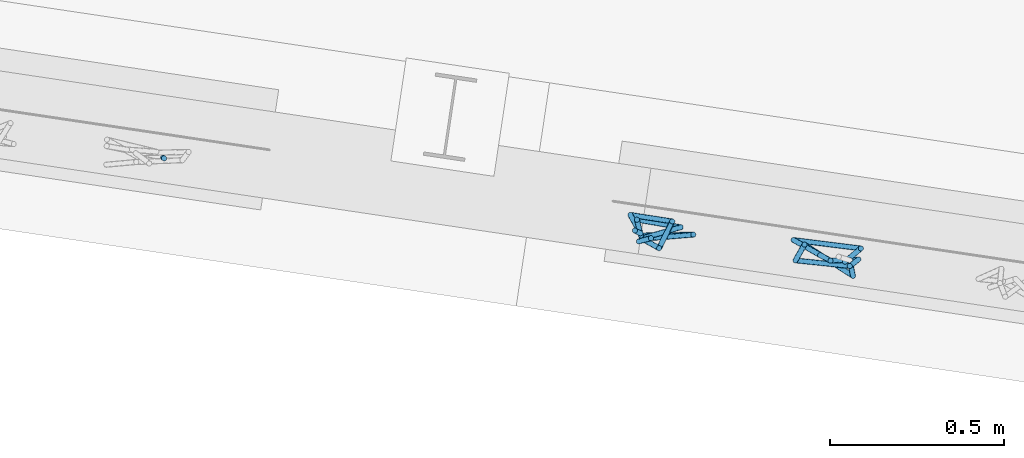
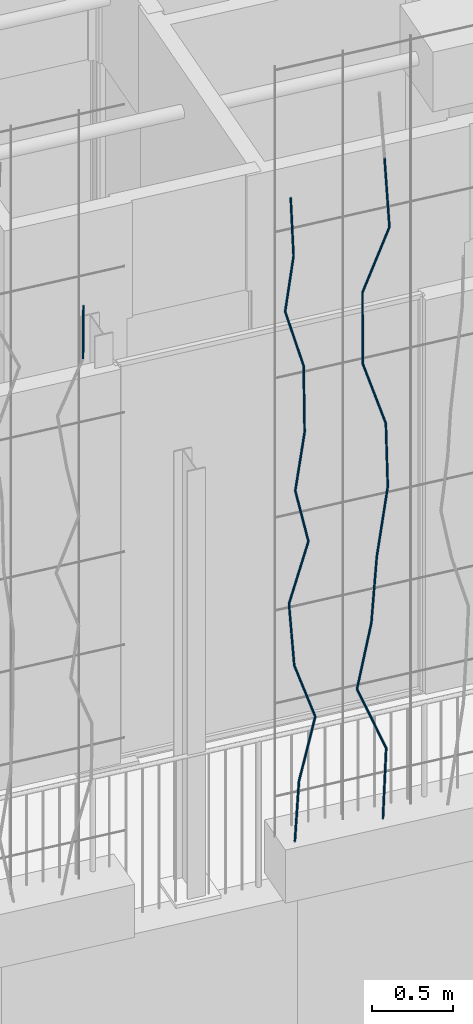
# One storey, part 112 of 142: 22 members, 1 element without a shape of its own.
"""IFC4 building model written with IfcOpenShell, lengths in metres."""

from ifc_helpers import new_model, si_unit, direction, frame, origin_with_axes, place, context, subcontext, project, spatial, circle, extrude, material, material_profile, profile_set, profile_usage, type_object, element, aggregate, save


model = new_model("IFC4")

# Units and contexts
model_context = context("Model", 3, precision=1e-05, world=origin_with_axes(), true_north=direction((0.0, 1.0)))
body_context = subcontext(model_context, "Body", "Model", "MODEL_VIEW")
ifc_project = project(units=[si_unit("VOLUMEUNIT", "CUBIC_METRE"), si_unit("LENGTHUNIT", "METRE"), si_unit("AREAUNIT", "SQUARE_METRE")], contexts=[model_context])

# Site, building, storey
site_placement = place(None, origin_with_axes())
site = spatial("IfcSite", under=ifc_project, at=site_placement, Name="Lares · Rua das Mercês · artigo 4771")
building_placement = place(site_placement, frame((12.0, 10.2, 13.9), z_axis=(0.0, 0.0, 1.0), x_axis=(0.989015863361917, -0.147809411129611, 0.0)))
building = spatial("IfcBuilding", under=site, at=building_placement, Name="Casa Sobreposta")
storey_placement = place(building_placement, origin_with_axes())
storey = spatial("IfcBuildingStorey", under=building, at=storey_placement, Name="00 · Habitação e estacionamento", Elevation=13.9)

# Assembly, members
assembly_placement = place(storey_placement, origin_with_axes())
assembly = element("IfcElementAssembly", 1, at=assembly_placement, inside=storey, Name="Fachada sul e pátio · estrutura e trepadeiras", ObjectType="LIVING_SHADE_TRELLIS", PredefinedType="USERDEFINED")
ifc_material = material(Name="Ramos de trepadeiras", Category="wood")
ifc_material_profile = material_profile(ifc_material, circle(Radius=0.0075))
ifc_profile_set = profile_set([ifc_material_profile], Name="D0.015")
ifc_profile_usage_1 = profile_usage(ifc_profile_set)
member_type = type_object("IfcMemberType", Name="D0.015 / vine_wood", PredefinedType="NOTDEFINED", material=ifc_profile_set)
member_1_placement = place(assembly_placement, frame((7.20002042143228, -1.67772191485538, 4.32719196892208), z_axis=(0.00748324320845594, -0.00300707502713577, 0.999967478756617), x_axis=(0.999972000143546, 2.25033038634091e-05, -0.00748320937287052)))
member_1 = element("IfcMember", 2, at=member_1_placement, type_object=member_type, material=ifc_profile_usage_1, Name="Trepadeiras · ramo", context=body_context, shape_type="SweptSolid", body=[
    extrude(circle(Radius=0.0075), origin_with_axes(), (0.0, 0.0, 1.0), 0.397732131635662),
])
ifc_profile_usage_2 = profile_usage(ifc_profile_set)
member_2_placement = place(assembly_placement, frame((8.59054246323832, -1.7135149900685, 0.35), z_axis=(0.074725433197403, 0.0323628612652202, 0.996678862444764), x_axis=(0.397419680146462, -0.917636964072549, 0.0)))
member_2 = element("IfcMember", 3, at=member_2_placement, type_object=member_type, material=ifc_profile_usage_2, Name="Trepadeiras · ramo", context=body_context, shape_type="SweptSolid", body=[
    extrude(circle(Radius=0.0075), origin_with_axes(), (0.0, 0.0, 1.0), 0.441355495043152),
])
ifc_profile_usage_3 = profile_usage(ifc_profile_set)
member_3_placement = place(assembly_placement, frame((8.62352294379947, -1.69923146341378, 0.789889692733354), z_axis=(0.260931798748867, 0.0614456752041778, 0.963399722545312), x_axis=(0.22921591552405, -0.973375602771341, 0.0)))
member_3 = element("IfcMember", 4, at=member_3_placement, type_object=member_type, material=ifc_profile_usage_3, Name="Trepadeiras · ramo", context=body_context, shape_type="SweptSolid", body=[
    extrude(circle(Radius=0.0075), origin_with_axes(), (0.0, 0.0, 1.0), 0.456601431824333),
])
ifc_profile_usage_4 = profile_usage(ifc_profile_set)
member_4_placement = place(assembly_placement, frame((8.7426647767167, -1.67117528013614, 1.22977938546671), z_axis=(-0.320146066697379, -0.0527548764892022, 0.945898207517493), x_axis=(-0.162591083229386, 0.986693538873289, 0.0)))
member_4 = element("IfcMember", 5, at=member_4_placement, type_object=member_type, material=ifc_profile_usage_4, Name="Trepadeiras · ramo", context=body_context, shape_type="SweptSolid", body=[
    extrude(circle(Radius=0.0075), origin_with_axes(), (0.0, 0.0, 1.0), 0.465049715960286),
])
ifc_profile_usage_5 = profile_usage(ifc_profile_set)
member_5_placement = place(assembly_placement, frame((8.59378093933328, -1.69570892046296, 1.66966907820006), z_axis=(-0.0407011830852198, 0.0974124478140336, 0.994411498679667), x_axis=(0.922697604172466, 0.385524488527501, 0.0)))
member_5 = element("IfcMember", 6, at=member_5_placement, type_object=member_type, material=ifc_profile_usage_5, Name="Trepadeiras · ramo", context=body_context, shape_type="SweptSolid", body=[
    extrude(circle(Radius=0.0075), origin_with_axes(), (0.0, 0.0, 1.0), 0.442361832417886),
])
ifc_profile_usage_6 = profile_usage(ifc_profile_set)
member_6_placement = place(assembly_placement, frame((8.57577628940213, -1.65261737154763, 2.10955877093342), z_axis=(0.279160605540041, -0.00602327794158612, 0.960225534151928), x_axis=(-0.0215713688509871, -0.999767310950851, 0.0)))
member_6 = element("IfcMember", 7, at=member_6_placement, type_object=member_type, material=ifc_profile_usage_6, Name="Trepadeiras · ramo", context=body_context, shape_type="SweptSolid", body=[
    extrude(circle(Radius=0.0075), origin_with_axes(), (0.0, 0.0, 1.0), 0.458110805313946),
])
ifc_profile_usage_7 = profile_usage(ifc_profile_set)
member_7_placement = place(assembly_placement, frame((8.70366277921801, -1.65537670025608, 2.54944846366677), z_axis=(-0.233601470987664, -0.106950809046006, 0.966432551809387), x_axis=(-0.416279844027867, 0.90923654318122, 0.0)))
member_7 = element("IfcMember", 8, at=member_7_placement, type_object=member_type, material=ifc_profile_usage_7, Name="Trepadeiras · ramo", context=body_context, shape_type="SweptSolid", body=[
    extrude(circle(Radius=0.0075), origin_with_axes(), (0.0, 0.0, 1.0), 0.455168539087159),
])
ifc_profile_usage_8 = profile_usage(ifc_profile_set)
member_8_placement = place(assembly_placement, frame((8.59733473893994, -1.70405734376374, 2.98933815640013), z_axis=(0.121360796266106, -0.0456594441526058, 0.991557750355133), x_axis=(-0.352131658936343, -0.93595047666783, 0.0)))
member_8 = element("IfcMember", 9, at=member_8_placement, type_object=member_type, material=ifc_profile_usage_8, Name="Trepadeiras · ramo", context=body_context, shape_type="SweptSolid", body=[
    extrude(circle(Radius=0.0075), origin_with_axes(), (0.0, 0.0, 1.0), 0.443634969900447),
])
ifc_profile_usage_9 = profile_usage(ifc_profile_set)
member_9_placement = place(assembly_placement, frame((8.65117463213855, -1.72431346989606, 3.42922784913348), z_axis=(0.0577712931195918, 0.182961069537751, 0.981421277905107), x_axis=(0.953591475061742, -0.301103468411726, 0.0)))
member_9 = element("IfcMember", 10, at=member_9_placement, type_object=member_type, material=ifc_profile_usage_9, Name="Trepadeiras · ramo", context=body_context, shape_type="SweptSolid", body=[
    extrude(circle(Radius=0.0075), origin_with_axes(), (0.0, 0.0, 1.0), 0.448216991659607),
])
ifc_profile_usage_10 = profile_usage(ifc_profile_set)
member_10_placement = place(assembly_placement, frame((8.6770687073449, -1.64230720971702, 3.86911754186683), z_axis=(-0.26759400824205, 0.00154657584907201, 0.96353051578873), x_axis=(0.00577946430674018, 0.999983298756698, 0.0)))
member_10 = element("IfcMember", 11, at=member_10_placement, type_object=member_type, material=ifc_profile_usage_10, Name="Trepadeiras · ramo", context=body_context, shape_type="SweptSolid", body=[
    extrude(circle(Radius=0.0075), origin_with_axes(), (0.0, 0.0, 1.0), 0.456539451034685),
])
ifc_profile_usage_11 = profile_usage(ifc_profile_set)
member_11_placement = place(assembly_placement, frame((8.5549014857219, -1.6416011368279, 4.30900723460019), z_axis=(0.0826915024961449, -0.10823453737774, 0.990680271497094), x_axis=(-0.794627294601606, -0.607097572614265, 0.0)))
member_11 = element("IfcMember", 12, at=member_11_placement, type_object=member_type, material=ifc_profile_usage_11, Name="Trepadeiras · ramo", context=body_context, shape_type="SweptSolid", body=[
    extrude(circle(Radius=0.0075), origin_with_axes(), (0.0, 0.0, 1.0), 0.444027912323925),
])
ifc_profile_usage_12 = profile_usage(ifc_profile_set)
member_12_placement = place(assembly_placement, frame((8.59161882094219, -1.68966029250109, 4.74889692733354), z_axis=(-0.0384160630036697, 0.0118576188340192, 0.999191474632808), x_axis=(0.999261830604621, 0.000455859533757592, 0.0384133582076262)))
member_12 = element("IfcMember", 13, at=member_12_placement, type_object=member_type, material=ifc_profile_usage_12, Name="Trepadeiras · ramo", context=body_context, shape_type="SweptSolid", body=[
    extrude(circle(Radius=0.0075), origin_with_axes(), (0.0, 0.0, 1.0), 0.440245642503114),
])
ifc_profile_usage_13 = profile_usage(ifc_profile_set)
member_13_placement = place(assembly_placement, frame((9.18640022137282, -1.68378506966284, 0.35), z_axis=(0.0784694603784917, 0.0892745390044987, 0.992911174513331), x_axis=(0.751097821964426, -0.660190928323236, 0.0)))
member_13 = element("IfcMember", 14, at=member_13_placement, type_object=member_type, material=ifc_profile_usage_13, Name="Trepadeiras · ramo", context=body_context, shape_type="SweptSolid", body=[
    extrude(circle(Radius=0.0075), origin_with_axes(), (0.0, 0.0, 1.0), 0.501089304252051),
])
ifc_profile_usage_14 = profile_usage(ifc_profile_set)
member_14_placement = place(assembly_placement, frame((9.22572042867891, -1.63905055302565, 0.847537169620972), z_axis=(-0.36542380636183, -0.00871687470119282, 0.930800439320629), x_axis=(-0.0238473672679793, 0.999715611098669, 0.0)))
member_14 = element("IfcMember", 15, at=member_14_placement, type_object=member_type, material=ifc_profile_usage_14, Name="Trepadeiras · ramo", context=body_context, shape_type="SweptSolid", body=[
    extrude(circle(Radius=0.0075), origin_with_axes(), (0.0, 0.0, 1.0), 0.534526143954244),
])
ifc_profile_usage_15 = profile_usage(ifc_profile_set)
member_15_placement = place(assembly_placement, frame((9.03039185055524, -1.64370995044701, 1.34507433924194), z_axis=(0.163392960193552, -0.0633863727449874, 0.984522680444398), x_axis=(-0.361676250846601, -0.932303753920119, 0.0)))
member_15 = element("IfcMember", 16, at=member_15_placement, type_object=member_type, material=ifc_profile_usage_15, Name="Trepadeiras · ramo", context=body_context, shape_type="SweptSolid", body=[
    extrude(circle(Radius=0.0075), origin_with_axes(), (0.0, 0.0, 1.0), 0.505358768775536),
])
ifc_profile_usage_16 = profile_usage(ifc_profile_set)
member_16_placement = place(assembly_placement, frame((9.11296391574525, -1.67574280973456, 1.84261150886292), z_axis=(0.0632140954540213, -0.0219950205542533, 0.997757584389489), x_axis=(-0.328620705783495, -0.944461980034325, 0.0)))
member_16 = element("IfcMember", 17, at=member_16_placement, type_object=member_type, material=ifc_profile_usage_16, Name="Trepadeiras · ramo", context=body_context, shape_type="SweptSolid", body=[
    extrude(circle(Radius=0.0075), origin_with_axes(), (0.0, 0.0, 1.0), 0.49865536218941),
])
ifc_profile_usage_17 = profile_usage(ifc_profile_set)
member_17_placement = place(assembly_placement, frame((9.14448596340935, -1.68671074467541, 2.34014867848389), z_axis=(0.156733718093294, 0.030272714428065, 0.987176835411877), x_axis=(0.189642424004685, -0.981853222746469, 0.0)))
member_17 = element("IfcMember", 18, at=member_17_placement, type_object=member_type, material=ifc_profile_usage_17, Name="Trepadeiras · ramo", context=body_context, shape_type="SweptSolid", body=[
    extrude(circle(Radius=0.0075), origin_with_axes(), (0.0, 0.0, 1.0), 0.504000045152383),
])
ifc_profile_usage_18 = profile_usage(ifc_profile_set)
member_18_placement = place(assembly_placement, frame((9.22347976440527, -1.67145329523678, 2.83768584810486), z_axis=(-0.043628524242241, -0.0455250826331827, 0.998010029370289), x_axis=(-0.721985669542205, 0.691908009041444, 0.0)))
member_18 = element("IfcMember", 19, at=member_18_placement, type_object=member_type, material=ifc_profile_usage_18, Name="Trepadeiras · ramo", context=body_context, shape_type="SweptSolid", body=[
    extrude(circle(Radius=0.0075), origin_with_axes(), (0.0, 0.0, 1.0), 0.498529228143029),
])
ifc_profile_usage_19 = profile_usage(ifc_profile_set)
member_19_placement = place(assembly_placement, frame((9.20172966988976, -1.69414887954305, 3.33522301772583), z_axis=(-0.300800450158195, -0.0131721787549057, 0.95359613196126), x_axis=(-0.0437484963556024, 0.999042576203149, 0.0)))
member_19 = element("IfcMember", 20, at=member_19_placement, type_object=member_type, material=ifc_profile_usage_19, Name="Trepadeiras · ramo", context=body_context, shape_type="SweptSolid", body=[
    extrude(circle(Radius=0.0075), origin_with_axes(), (0.0, 0.0, 1.0), 0.521748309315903),
])
ifc_profile_usage_20 = profile_usage(ifc_profile_set)
member_20_placement = place(assembly_placement, frame((9.04478754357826, -1.70102144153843, 3.8327601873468), z_axis=(0.0376984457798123, 0.0974391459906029, 0.994527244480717), x_axis=(0.932632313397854, -0.360828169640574, 0.0)))
member_20 = element("IfcMember", 21, at=member_20_placement, type_object=member_type, material=ifc_profile_usage_20, Name="Trepadeiras · ramo", context=body_context, shape_type="SweptSolid", body=[
    extrude(circle(Radius=0.0075), origin_with_axes(), (0.0, 0.0, 1.0), 0.500275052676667),
])
ifc_profile_usage_21 = profile_usage(ifc_profile_set)
member_21_placement = place(assembly_placement, frame((9.06364713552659, -1.65227506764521, 4.33029735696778), z_axis=(0.288810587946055, -0.130428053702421, 0.94846031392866), x_axis=(-0.411580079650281, -0.911373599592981, 0.0)))
member_21 = element("IfcMember", 22, at=member_21_placement, type_object=member_type, material=ifc_profile_usage_21, Name="Trepadeiras · ramo", context=body_context, shape_type="SweptSolid", body=[
    extrude(circle(Radius=0.0075), origin_with_axes(), (0.0, 0.0, 1.0), 0.524573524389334),
])
ifc_profile_usage_22 = profile_usage(ifc_profile_set)
member_22_placement = place(assembly_placement, frame((9.2151495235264, -1.72069417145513, 4.82783452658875), z_axis=(-0.0315166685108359, 0.0862322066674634, 0.995776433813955), x_axis=(0.939234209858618, 0.343277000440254, 4.70366638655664e-18)))
member_22 = element("IfcMember", 23, at=member_22_placement, type_object=member_type, material=ifc_profile_usage_22, Name="Trepadeiras · ramo", context=body_context, shape_type="SweptSolid", body=[
    extrude(circle(Radius=0.0075), origin_with_axes(), (0.0, 0.0, 1.0), 0.499647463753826),
])
aggregate(assembly, [member_1, member_2, member_3, member_4, member_5, member_6, member_7, member_8, member_9, member_10, member_11, member_12, member_13, member_14, member_15, member_16, member_17, member_18, member_19, member_20, member_21, member_22])

save(model, "model.ifc")
